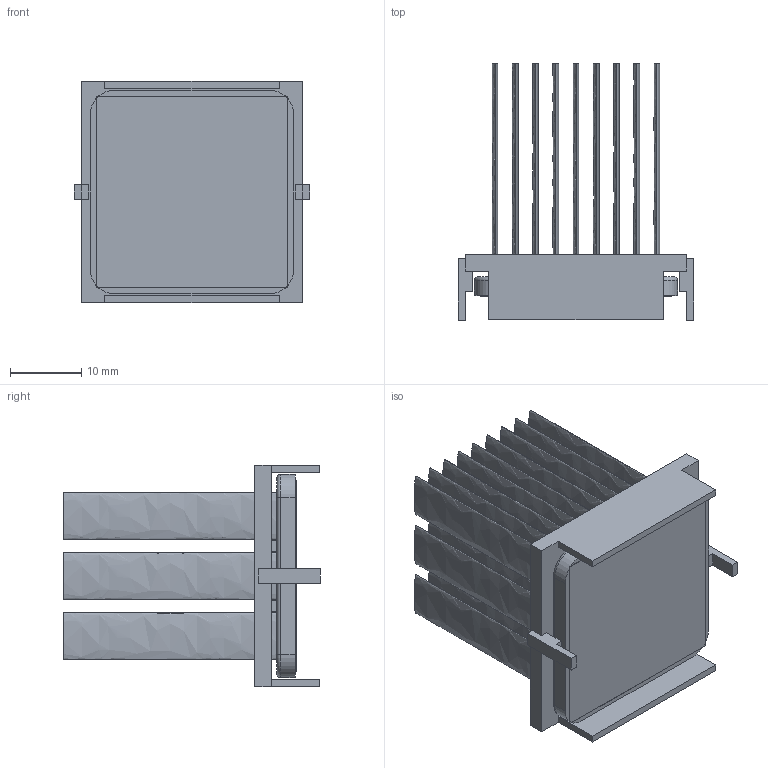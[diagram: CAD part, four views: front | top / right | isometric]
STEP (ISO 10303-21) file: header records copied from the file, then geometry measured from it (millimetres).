
FILE_DESCRIPTION (( 'STEP AP214' ), '1' );
FILE_NAME ('INM29001-33W-2.6Y.STEP', '2023-02-17T21:25:15', ( '' ), ( '' ), 'SwSTEP 2.0', 'SolidWorks 2020', '' );
FILE_SCHEMA (( 'AUTOMOTIVE_DESIGN' ));
Length unit declared in the file: inch
Products named in the file (1): INM29001-33W-2.6Y
Bounding box: 33.2 x 36.1 x 31.2 mm (x, y, z)
Volume: 7107.7 mm3; surface area: 16612.7 mm2
Topology: 3 solids, 3 shells, 163 faces, 382 edges, 252 vertices
Faces by surface type: plane 97, bspline 54, cylinder 8, torus 4
Entity records: 6919 total; most frequent: CARTESIAN_POINT 1500, ORIENTED_EDGE 764, DIRECTION 514, EDGE_CURVE 382, VECTOR 254, LINE 254, VERTEX_POINT 252, EDGE_LOOP 192
